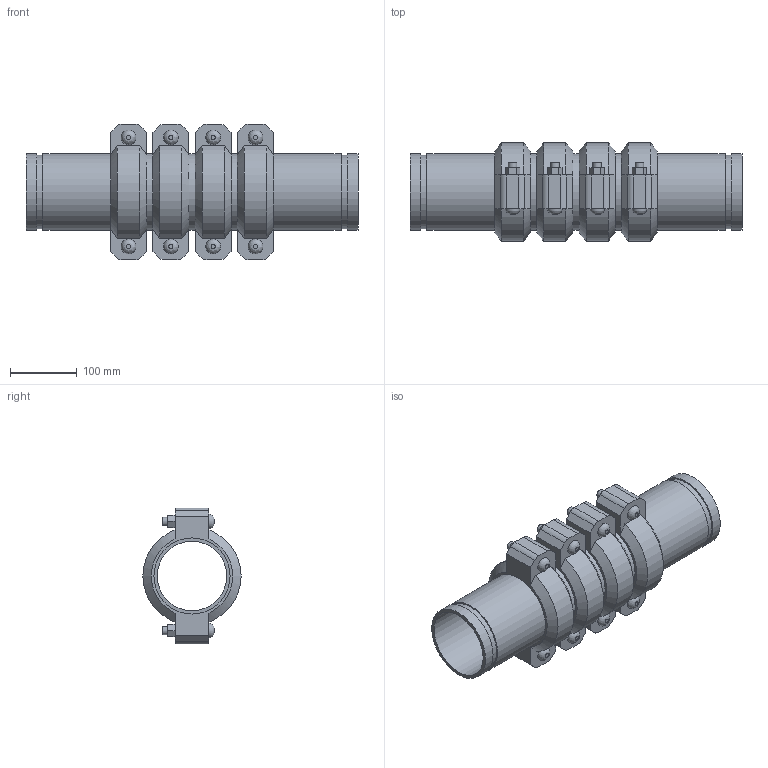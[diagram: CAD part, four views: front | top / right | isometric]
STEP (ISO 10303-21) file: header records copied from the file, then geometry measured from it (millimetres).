
FILE_DESCRIPTION(/* description */ ('VIC SS EXPANSION JOINT 4 COUPLINGS NEUTRAL STYLE 155P (OGS) (POTABLE WATER) ','CAx-IF Rec.Pracs.---Representation and Presentation of Product Manufacturing Information (PMI)---4.0---2014-10-13'),/* implementation_level */ '2;1');
FILE_NAME(/* name */ 'C:\Users\kkamble\AppData\Roaming\Autodesk\ApplicationPlugins\Victaulic.Temp\A324\Victaulic_SS_Expansion Joint_Neutral_4 Couplings_Style 155P (OGS)-Potable Water_4 Coup_Neut_4 (100).stp',/* time_stamp */ '2021-07-16T16:33:34+05:00',/* author */ ('kkamble'),/* organization */ ('Victaulic'),/* preprocessor_version */ 'ST-DEVELOPER v17.2',/* originating_system */ 'Autodesk Inventor 2019',/* authorisation */ '');
FILE_SCHEMA (('AP242_MANAGED_MODEL_BASED_3D_ENGINEERING_MIM_LF { 1 0 10303 442 1 1 4 }'));
Length unit declared in the file: inch
Products named in the file (4): 155P-04.0; Nipple-04.0; Nipple-04.0_1; 075-04.0
Assembly tree (9 placements, depth 2):
  155P-04.0
    Nipple-04.0  x2
    Nipple-04.0_1  x3
    075-04.0  x4
Bounding box: 498.09 x 147.32 x 203.96 mm (x, y, z)
Volume: 2722238.8 mm3; surface area: 676568.4 mm2
Topology: 9 solids, 17 shells, 288 faces, 682 edges, 480 vertices
Faces by surface type: plane 174, cylinder 90, cone 16, bspline 8
Full cylindrical faces by diameter (mm): 12.7 x16, 14.605 x8, 103.988 x5, 107.95 x4, 110.084 x10, 114.3 x23
Entity records: 2785 total; most frequent: CARTESIAN_POINT 493, DIRECTION 461, ORIENTED_EDGE 386, EDGE_CURVE 193, AXIS2_PLACEMENT_3D 184, VERTEX_POINT 138, EDGE_LOOP 107, LINE 93
